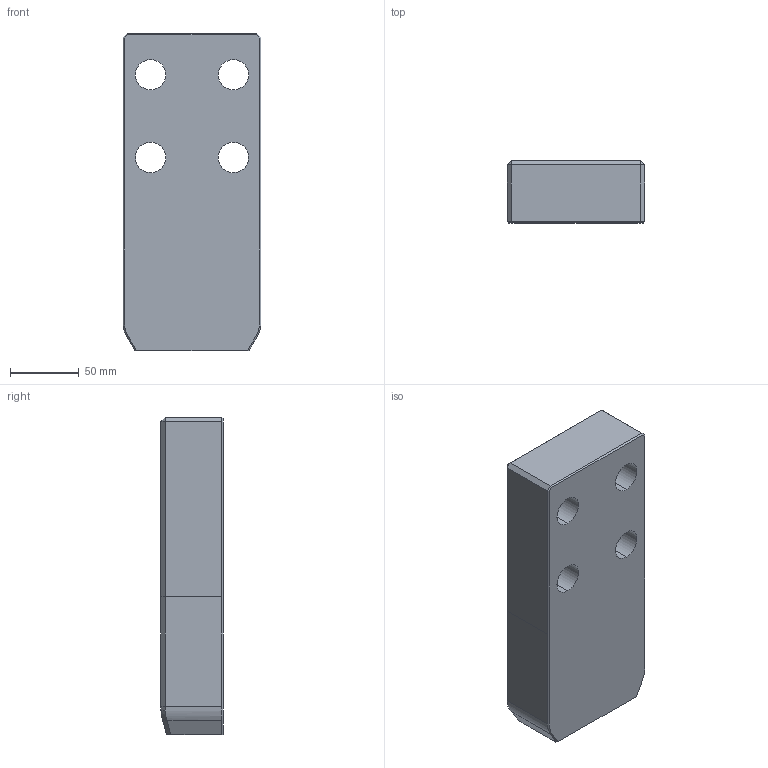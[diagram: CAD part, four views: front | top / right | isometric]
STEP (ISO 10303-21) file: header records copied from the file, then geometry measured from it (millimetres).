
FILE_DESCRIPTION((''),'2;1');
FILE_NAME('','2010-09-08T12:52:51+09:00',('misumi'),(''),'M/STEP i/f 1R2-14','CADmeister v5.1','');
FILE_SCHEMA(('AUTOMOTIVE_DESIGN'));
Length unit declared in the file: millimetre
Products named in the file (1): OGP100-230
Bounding box: 100 x 45 x 230 mm (x, y, z)
Volume: 951230.1 mm3; surface area: 83512.6 mm2
Topology: 1 solids, 1 shells, 53 faces, 128 edges, 78 vertices
Faces by surface type: plane 32, cylinder 13, bspline 6, cone 2
Entity records: 1903 total; most frequent: CARTESIAN_POINT 598, ORIENTED_EDGE 248, DIRECTION 234, EDGE_CURVE 124, LINE 82, VECTOR 82, AXIS2_PLACEMENT_3D 76, VERTEX_POINT 74
